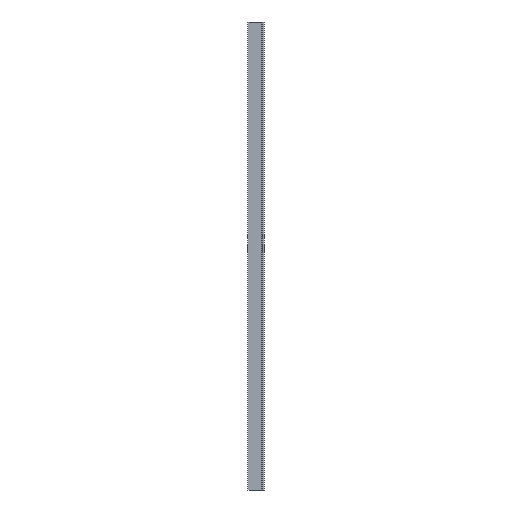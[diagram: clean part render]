
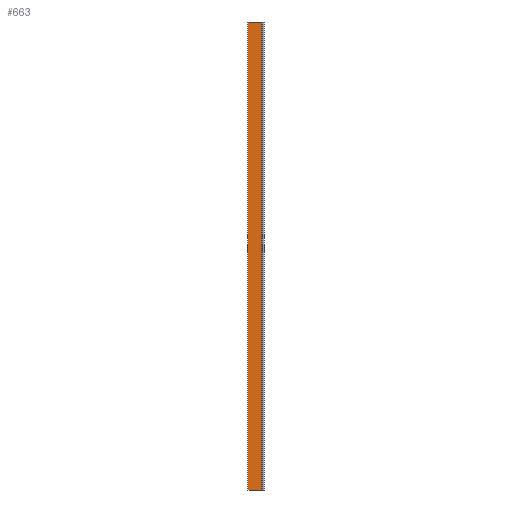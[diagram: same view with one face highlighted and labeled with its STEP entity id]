
A CAD part, left-side view. The second image highlights one B-rep face of the part: STEP entity #663.
In plain terms, the highlighted planar face has unit normal (-1, 0, 0).
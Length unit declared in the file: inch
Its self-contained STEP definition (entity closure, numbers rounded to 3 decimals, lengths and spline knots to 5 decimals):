
#1 = AXIS2_PLACEMENT_3D ( 'NONE', #40, #106, #312 ) ;
#4 = VERTEX_POINT ( 'NONE', #401 ) ;
#30 = VECTOR ( 'NONE', #522, 39.37008 ) ;
#40 = CARTESIAN_POINT ( 'NONE',  ( 0., 0.03937, 120. ) ) ;
#50 = EDGE_CURVE ( 'NONE', #660, #604, #591, .T. ) ;
#69 = DIRECTION ( 'NONE',  ( 0., 0., -1. ) ) ;
#91 = DIRECTION ( 'NONE',  ( 0., -1., 0. ) ) ;
#98 = VECTOR ( 'NONE', #91, 39.37008 ) ;
#104 = CARTESIAN_POINT ( 'NONE',  ( 0., 3.625, 120. ) ) ;
#106 = DIRECTION ( 'NONE',  ( 1., 0., 0. ) ) ;
#107 = LINE ( 'NONE', #330, #161 ) ;
#127 = FACE_OUTER_BOUND ( 'NONE', #613, .T. ) ;
#151 = CARTESIAN_POINT ( 'NONE',  ( 0., 3.625, 120. ) ) ;
#161 = VECTOR ( 'NONE', #569, 39.37008 ) ;
#205 = PLANE ( 'NONE',  #1 ) ;
#208 = EDGE_CURVE ( 'NONE', #604, #4, #107, .T. ) ;
#251 = VECTOR ( 'NONE', #69, 39.37008 ) ;
#268 = VERTEX_POINT ( 'NONE', #713 ) ;
#295 = EDGE_CURVE ( 'NONE', #660, #268, #709, .T. ) ;
#311 = CARTESIAN_POINT ( 'NONE',  ( 0., 0.03937, 120. ) ) ;
#312 = DIRECTION ( 'NONE',  ( 0., 0., -1. ) ) ;
#327 = ORIENTED_EDGE ( 'NONE', *, *, #50, .F. ) ;
#330 = CARTESIAN_POINT ( 'NONE',  ( 0., 0.03937, 120. ) ) ;
#401 = CARTESIAN_POINT ( 'NONE',  ( 0., 0.03937, 0. ) ) ;
#468 = EDGE_CURVE ( 'NONE', #268, #4, #672, .T. ) ;
#504 = CARTESIAN_POINT ( 'NONE',  ( 0., 0.03937, 0. ) ) ;
#522 = DIRECTION ( 'NONE',  ( 0., -1., 0. ) ) ;
#569 = DIRECTION ( 'NONE',  ( 0., 0., -1. ) ) ;
#591 = LINE ( 'NONE', #311, #98 ) ;
#603 = ORIENTED_EDGE ( 'NONE', *, *, #295, .T. ) ;
#604 = VERTEX_POINT ( 'NONE', #690 ) ;
#613 = EDGE_LOOP ( 'NONE', ( #668, #677, #327, #603 ) ) ;
#660 = VERTEX_POINT ( 'NONE', #104 ) ;
#663 = ADVANCED_FACE ( 'NONE', ( #127 ), #205, .F. ) ;
#668 = ORIENTED_EDGE ( 'NONE', *, *, #468, .T. ) ;
#672 = LINE ( 'NONE', #504, #30 ) ;
#677 = ORIENTED_EDGE ( 'NONE', *, *, #208, .F. ) ;
#690 = CARTESIAN_POINT ( 'NONE',  ( 0., 0.03937, 120. ) ) ;
#709 = LINE ( 'NONE', #151, #251 ) ;
#713 = CARTESIAN_POINT ( 'NONE',  ( 0., 3.625, 0. ) ) ;
